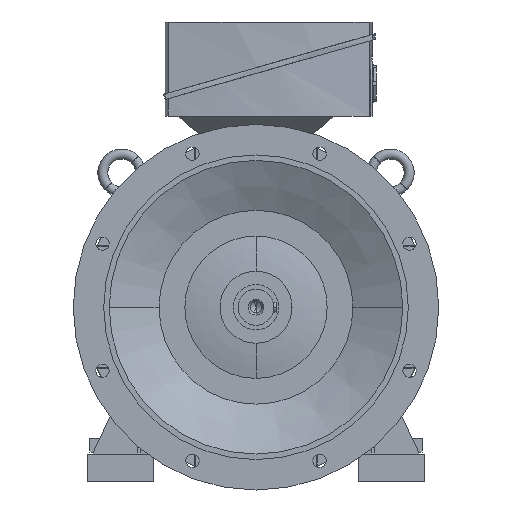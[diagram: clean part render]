
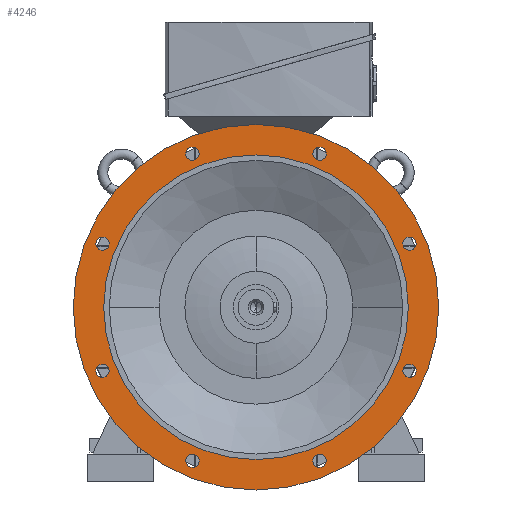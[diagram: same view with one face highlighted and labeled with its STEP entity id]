
A CAD part, left-side view. The second image highlights one B-rep face of the part: STEP entity #4246.
In plain terms, the highlighted planar face has unit normal (-1, 0, 0).
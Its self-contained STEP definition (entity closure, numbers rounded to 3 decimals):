
#4246=ADVANCED_FACE('',(#8548,#8549,#8550,#8551,#8552,#8553,#8554,#8555,#8556,#8557),#8558,.T.);
#8548=FACE_BOUND('',#12873,.T.);
#8549=FACE_BOUND('',#12874,.T.);
#8550=FACE_BOUND('',#12875,.T.);
#8551=FACE_BOUND('',#12876,.T.);
#8552=FACE_BOUND('',#12877,.T.);
#8553=FACE_BOUND('',#12878,.T.);
#8554=FACE_BOUND('',#12879,.T.);
#8555=FACE_BOUND('',#12880,.T.);
#8556=FACE_OUTER_BOUND('',#12881,.T.);
#8557=FACE_BOUND('',#12882,.T.);
#8558=PLANE('',#12883);
#12873=EDGE_LOOP('',(#26391,#26392));
#12874=EDGE_LOOP('',(#26393,#26394));
#12875=EDGE_LOOP('',(#26395,#26396));
#12876=EDGE_LOOP('',(#26397,#26398));
#12877=EDGE_LOOP('',(#26399,#26400));
#12878=EDGE_LOOP('',(#26401,#26402));
#12879=EDGE_LOOP('',(#26403,#26404));
#12880=EDGE_LOOP('',(#26405,#26406));
#12881=EDGE_LOOP('',(#26407,#26408));
#12882=EDGE_LOOP('',(#26409,#26410));
#12883=AXIS2_PLACEMENT_3D('',#26411,#26412,#26413);
#26391=ORIENTED_EDGE('',*,*,#31736,.T.);
#26392=ORIENTED_EDGE('',*,*,#26727,.T.);
#26393=ORIENTED_EDGE('',*,*,#31739,.T.);
#26394=ORIENTED_EDGE('',*,*,#26722,.T.);
#26395=ORIENTED_EDGE('',*,*,#31742,.T.);
#26396=ORIENTED_EDGE('',*,*,#26717,.T.);
#26397=ORIENTED_EDGE('',*,*,#31745,.T.);
#26398=ORIENTED_EDGE('',*,*,#26712,.T.);
#26399=ORIENTED_EDGE('',*,*,#31748,.T.);
#26400=ORIENTED_EDGE('',*,*,#26707,.T.);
#26401=ORIENTED_EDGE('',*,*,#31751,.T.);
#26402=ORIENTED_EDGE('',*,*,#26702,.T.);
#26403=ORIENTED_EDGE('',*,*,#31754,.T.);
#26404=ORIENTED_EDGE('',*,*,#26697,.T.);
#26405=ORIENTED_EDGE('',*,*,#31757,.T.);
#26406=ORIENTED_EDGE('',*,*,#26692,.T.);
#26407=ORIENTED_EDGE('',*,*,#26656,.F.);
#26408=ORIENTED_EDGE('',*,*,#31817,.F.);
#26409=ORIENTED_EDGE('',*,*,#26663,.T.);
#26410=ORIENTED_EDGE('',*,*,#31815,.T.);
#26411=CARTESIAN_POINT('',(-110.0,302.5,0.0));
#26412=DIRECTION('',(-1.0,0.0,0.0));
#26413=DIRECTION('',(0.0,-1.0,0.0));
#26656=EDGE_CURVE('',#32133,#32136,#32137,.T.);
#26663=EDGE_CURVE('',#32143,#32147,#32149,.T.);
#26692=EDGE_CURVE('',#32198,#32195,#32199,.T.);
#26697=EDGE_CURVE('',#32207,#32204,#32208,.T.);
#26702=EDGE_CURVE('',#32216,#32213,#32217,.T.);
#26707=EDGE_CURVE('',#32225,#32222,#32226,.T.);
#26712=EDGE_CURVE('',#32234,#32231,#32235,.T.);
#26717=EDGE_CURVE('',#32243,#32240,#32244,.T.);
#26722=EDGE_CURVE('',#32252,#32249,#32253,.T.);
#26727=EDGE_CURVE('',#32261,#32258,#32262,.T.);
#31736=EDGE_CURVE('',#32258,#32261,#39727,.T.);
#31739=EDGE_CURVE('',#32249,#32252,#39730,.T.);
#31742=EDGE_CURVE('',#32240,#32243,#39733,.T.);
#31745=EDGE_CURVE('',#32231,#32234,#39736,.T.);
#31748=EDGE_CURVE('',#32222,#32225,#39739,.T.);
#31751=EDGE_CURVE('',#32213,#32216,#39742,.T.);
#31754=EDGE_CURVE('',#32204,#32207,#39745,.T.);
#31757=EDGE_CURVE('',#32195,#32198,#39748,.T.);
#31815=EDGE_CURVE('',#32147,#32143,#39806,.T.);
#31817=EDGE_CURVE('',#32136,#32133,#39808,.T.);
#32133=VERTEX_POINT('',#40636);
#32136=VERTEX_POINT('',#40640);
#32137=CIRCLE('',#40641,330.0);
#32143=VERTEX_POINT('',#40648);
#32147=VERTEX_POINT('',#40653);
#32149=CIRCLE('',#40656,275.0);
#32195=VERTEX_POINT('',#40710);
#32198=VERTEX_POINT('',#40714);
#32199=CIRCLE('',#40715,12.0);
#32204=VERTEX_POINT('',#40721);
#32207=VERTEX_POINT('',#40725);
#32208=CIRCLE('',#40726,12.0);
#32213=VERTEX_POINT('',#40732);
#32216=VERTEX_POINT('',#40736);
#32217=CIRCLE('',#40737,12.0);
#32222=VERTEX_POINT('',#40743);
#32225=VERTEX_POINT('',#40747);
#32226=CIRCLE('',#40748,12.0);
#32231=VERTEX_POINT('',#40754);
#32234=VERTEX_POINT('',#40758);
#32235=CIRCLE('',#40759,12.0);
#32240=VERTEX_POINT('',#40765);
#32243=VERTEX_POINT('',#40769);
#32244=CIRCLE('',#40770,12.0);
#32249=VERTEX_POINT('',#40776);
#32252=VERTEX_POINT('',#40780);
#32253=CIRCLE('',#40781,12.0);
#32258=VERTEX_POINT('',#40787);
#32261=VERTEX_POINT('',#40791);
#32262=CIRCLE('',#40792,12.0);
#39727=CIRCLE('',#60355,12.0);
#39730=CIRCLE('',#60358,12.0);
#39733=CIRCLE('',#60361,12.0);
#39736=CIRCLE('',#60364,12.0);
#39739=CIRCLE('',#60367,12.0);
#39742=CIRCLE('',#60370,12.0);
#39745=CIRCLE('',#60373,12.0);
#39748=CIRCLE('',#60376,12.0);
#39806=CIRCLE('',#60450,275.0);
#39808=CIRCLE('',#60452,330.0);
#40636=CARTESIAN_POINT('',(-110.0,330.0,0.0));
#40640=CARTESIAN_POINT('',(-110.0,-330.0,0.));
#40641=AXIS2_PLACEMENT_3D('',#60656,#60657,#60658);
#40648=CARTESIAN_POINT('',(-110.0,275.0,0.0));
#40653=CARTESIAN_POINT('',(-110.0,-275.0,0.));
#40656=AXIS2_PLACEMENT_3D('',#60668,#60669,#60670);
#40710=CARTESIAN_POINT('',(-110.0,-119.397,288.25));
#40714=CARTESIAN_POINT('',(-110.0,-110.213,266.077));
#40715=AXIS2_PLACEMENT_3D('',#60719,#60720,#60721);
#40721=CARTESIAN_POINT('',(-110.0,119.397,288.25));
#40725=CARTESIAN_POINT('',(-110.0,110.213,266.077));
#40726=AXIS2_PLACEMENT_3D('',#60727,#60728,#60729);
#40732=CARTESIAN_POINT('',(-110.0,288.25,119.397));
#40736=CARTESIAN_POINT('',(-110.0,266.077,110.213));
#40737=AXIS2_PLACEMENT_3D('',#60735,#60736,#60737);
#40743=CARTESIAN_POINT('',(-110.0,288.25,-119.397));
#40747=CARTESIAN_POINT('',(-110.0,266.077,-110.213));
#40748=AXIS2_PLACEMENT_3D('',#60743,#60744,#60745);
#40754=CARTESIAN_POINT('',(-110.0,119.397,-288.25));
#40758=CARTESIAN_POINT('',(-110.0,110.213,-266.077));
#40759=AXIS2_PLACEMENT_3D('',#60751,#60752,#60753);
#40765=CARTESIAN_POINT('',(-110.0,-119.397,-288.25));
#40769=CARTESIAN_POINT('',(-110.0,-110.213,-266.077));
#40770=AXIS2_PLACEMENT_3D('',#60759,#60760,#60761);
#40776=CARTESIAN_POINT('',(-110.0,-288.25,-119.397));
#40780=CARTESIAN_POINT('',(-110.0,-266.077,-110.213));
#40781=AXIS2_PLACEMENT_3D('',#60767,#60768,#60769);
#40787=CARTESIAN_POINT('',(-110.0,-288.25,119.397));
#40791=CARTESIAN_POINT('',(-110.0,-266.077,110.213));
#40792=AXIS2_PLACEMENT_3D('',#60775,#60776,#60777);
#60355=AXIS2_PLACEMENT_3D('',#65954,#65955,#65956);
#60358=AXIS2_PLACEMENT_3D('',#65960,#65961,#65962);
#60361=AXIS2_PLACEMENT_3D('',#65966,#65967,#65968);
#60364=AXIS2_PLACEMENT_3D('',#65972,#65973,#65974);
#60367=AXIS2_PLACEMENT_3D('',#65978,#65979,#65980);
#60370=AXIS2_PLACEMENT_3D('',#65984,#65985,#65986);
#60373=AXIS2_PLACEMENT_3D('',#65990,#65991,#65992);
#60376=AXIS2_PLACEMENT_3D('',#65996,#65997,#65998);
#60450=AXIS2_PLACEMENT_3D('',#66039,#66040,#66041);
#60452=AXIS2_PLACEMENT_3D('',#66042,#66043,#66044);
#60656=CARTESIAN_POINT('',(-110.0,0.0,0.0));
#60657=DIRECTION('',(1.0,0.0,0.0));
#60658=DIRECTION('',(0.0,1.0,0.0));
#60668=CARTESIAN_POINT('',(-110.0,0.0,0.0));
#60669=DIRECTION('',(1.0,0.0,0.0));
#60670=DIRECTION('',(0.0,1.0,0.0));
#60719=CARTESIAN_POINT('',(-110.0,-114.805,277.164));
#60720=DIRECTION('',(1.0,0.0,-0.0));
#60721=DIRECTION('',(0.0,-0.383,0.924));
#60727=CARTESIAN_POINT('',(-110.0,114.805,277.164));
#60728=DIRECTION('',(1.0,0.0,-0.0));
#60729=DIRECTION('',(0.0,0.383,0.924));
#60735=CARTESIAN_POINT('',(-110.0,277.164,114.805));
#60736=DIRECTION('',(1.0,0.0,-0.0));
#60737=DIRECTION('',(0.0,0.924,0.383));
#60743=CARTESIAN_POINT('',(-110.0,277.164,-114.805));
#60744=DIRECTION('',(1.0,-0.0,0.0));
#60745=DIRECTION('',(0.0,0.924,-0.383));
#60751=CARTESIAN_POINT('',(-110.0,114.805,-277.164));
#60752=DIRECTION('',(1.0,-0.0,0.0));
#60753=DIRECTION('',(0.0,0.383,-0.924));
#60759=CARTESIAN_POINT('',(-110.0,-114.805,-277.164));
#60760=DIRECTION('',(1.0,0.0,0.0));
#60761=DIRECTION('',(0.0,-0.383,-0.924));
#60767=CARTESIAN_POINT('',(-110.0,-277.164,-114.805));
#60768=DIRECTION('',(1.0,0.0,0.0));
#60769=DIRECTION('',(0.0,-0.924,-0.383));
#60775=CARTESIAN_POINT('',(-110.0,-277.164,114.805));
#60776=DIRECTION('',(1.0,0.0,-0.0));
#60777=DIRECTION('',(0.0,-0.924,0.383));
#65954=CARTESIAN_POINT('',(-110.0,-277.164,114.805));
#65955=DIRECTION('',(1.0,0.0,-0.0));
#65956=DIRECTION('',(0.0,-0.924,0.383));
#65960=CARTESIAN_POINT('',(-110.0,-277.164,-114.805));
#65961=DIRECTION('',(1.0,0.0,0.0));
#65962=DIRECTION('',(0.0,-0.924,-0.383));
#65966=CARTESIAN_POINT('',(-110.0,-114.805,-277.164));
#65967=DIRECTION('',(1.0,0.0,0.0));
#65968=DIRECTION('',(0.0,-0.383,-0.924));
#65972=CARTESIAN_POINT('',(-110.0,114.805,-277.164));
#65973=DIRECTION('',(1.0,-0.0,0.0));
#65974=DIRECTION('',(0.0,0.383,-0.924));
#65978=CARTESIAN_POINT('',(-110.0,277.164,-114.805));
#65979=DIRECTION('',(1.0,-0.0,0.0));
#65980=DIRECTION('',(0.0,0.924,-0.383));
#65984=CARTESIAN_POINT('',(-110.0,277.164,114.805));
#65985=DIRECTION('',(1.0,0.0,-0.0));
#65986=DIRECTION('',(0.0,0.924,0.383));
#65990=CARTESIAN_POINT('',(-110.0,114.805,277.164));
#65991=DIRECTION('',(1.0,0.0,-0.0));
#65992=DIRECTION('',(0.0,0.383,0.924));
#65996=CARTESIAN_POINT('',(-110.0,-114.805,277.164));
#65997=DIRECTION('',(1.0,0.0,-0.0));
#65998=DIRECTION('',(0.0,-0.383,0.924));
#66039=CARTESIAN_POINT('',(-110.0,0.0,0.0));
#66040=DIRECTION('',(1.0,0.0,0.0));
#66041=DIRECTION('',(0.0,1.0,0.0));
#66042=CARTESIAN_POINT('',(-110.0,0.0,0.0));
#66043=DIRECTION('',(1.0,0.0,0.0));
#66044=DIRECTION('',(0.0,1.0,0.0));
